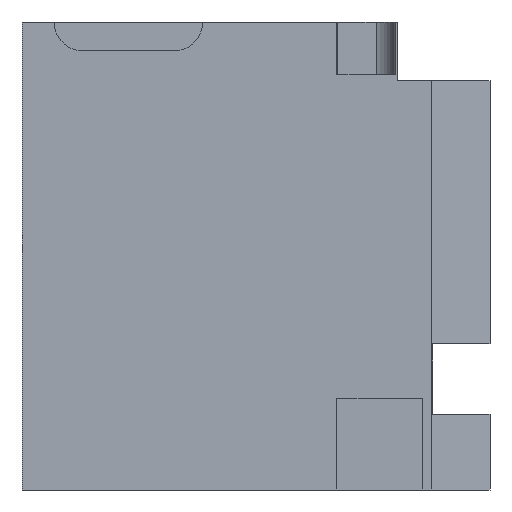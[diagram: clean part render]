
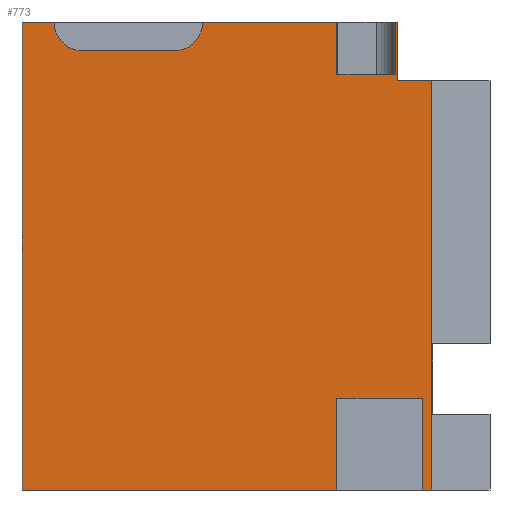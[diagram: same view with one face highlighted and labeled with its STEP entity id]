
A CAD part, left-side view. The second image highlights one B-rep face of the part: STEP entity #773.
In plain terms, the highlighted planar face has unit normal (-1, 0, 0).
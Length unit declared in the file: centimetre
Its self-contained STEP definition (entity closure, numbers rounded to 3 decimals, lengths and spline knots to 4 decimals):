
#14 = DIRECTION ( 'NONE',  ( 0., -1., 0. ) ) ;
#21 = LINE ( 'NONE', #136, #1499 ) ;
#35 = VERTEX_POINT ( 'NONE', #1261 ) ;
#36 = VECTOR ( 'NONE', #90, 100. ) ;
#41 = CARTESIAN_POINT ( 'NONE',  ( 0., 675.7896, 938.1245 ) ) ;
#61 = VECTOR ( 'NONE', #1421, 100. ) ;
#72 = CARTESIAN_POINT ( 'NONE',  ( 0., 869.4178, 1000. ) ) ;
#82 = ORIENTED_EDGE ( 'NONE', *, *, #718, .F. ) ;
#90 = DIRECTION ( 'NONE',  ( 0., -1., 0. ) ) ;
#104 = VECTOR ( 'NONE', #1470, 100. ) ;
#114 = LINE ( 'NONE', #1567, #1287 ) ;
#122 = DIRECTION ( 'NONE',  ( 0., -1., 0. ) ) ;
#136 = CARTESIAN_POINT ( 'NONE',  ( 0., 124.3257, 1000. ) ) ;
#151 = FACE_OUTER_BOUND ( 'NONE', #714, .T. ) ;
#152 = DIRECTION ( 'NONE',  ( 0., 0., -1. ) ) ;
#158 = CARTESIAN_POINT ( 'NONE',  ( 0., 613.9141, 1000. ) ) ;
#171 = VERTEX_POINT ( 'NONE', #674 ) ;
#191 = ORIENTED_EDGE ( 'NONE', *, *, #1350, .F. ) ;
#198 = EDGE_CURVE ( 'NONE', #896, #943, #328, .T. ) ;
#208 = DIRECTION ( 'NONE',  ( 0., 0., 1. ) ) ;
#237 = CARTESIAN_POINT ( 'NONE',  ( 0., 144.4894, 196.3971 ) ) ;
#241 = CARTESIAN_POINT ( 'NONE',  ( 0., 1000., 0. ) ) ;
#256 = ORIENTED_EDGE ( 'NONE', *, *, #903, .F. ) ;
#260 = CARTESIAN_POINT ( 'NONE',  ( 0., 1000., 1000. ) ) ;
#265 = VECTOR ( 'NONE', #1509, 100. ) ;
#278 = EDGE_CURVE ( 'NONE', #809, #707, #21, .T. ) ;
#295 = VERTEX_POINT ( 'NONE', #619 ) ;
#304 = LINE ( 'NONE', #41, #458 ) ;
#311 = CARTESIAN_POINT ( 'NONE',  ( 0., 144.4894, 196.3971 ) ) ;
#317 = CARTESIAN_POINT ( 'NONE',  ( 0., 201.9825, 1000. ) ) ;
#324 = CARTESIAN_POINT ( 'NONE',  ( 0., 197.2023, 874.3855 ) ) ;
#328 = LINE ( 'NONE', #237, #1085 ) ;
#349 = VERTEX_POINT ( 'NONE', #1219 ) ;
#351 = VERTEX_POINT ( 'NONE', #1110 ) ;
#359 = VECTOR ( 'NONE', #152, 100. ) ;
#382 = ORIENTED_EDGE ( 'NONE', *, *, #1407, .F. ) ;
#387 = CARTESIAN_POINT ( 'NONE',  ( 0., 869.4178, 938.1245 ) ) ;
#430 = CARTESIAN_POINT ( 'NONE',  ( 0., 327.1732, 887.9261 ) ) ;
#431 = CIRCLE ( 'NONE', #580, 61.8755 ) ;
#446 = CARTESIAN_POINT ( 'NONE',  ( 0., 1000., 1000. ) ) ;
#447 = LINE ( 'NONE', #1036, #61 ) ;
#457 = EDGE_CURVE ( 'NONE', #171, #809, #114, .T. ) ;
#458 = VECTOR ( 'NONE', #995, 100. ) ;
#471 = DIRECTION ( 'NONE',  ( 0., 0., -1. ) ) ;
#476 = VERTEX_POINT ( 'NONE', #604 ) ;
#495 = VERTEX_POINT ( 'NONE', #317 ) ;
#504 = EDGE_CURVE ( 'NONE', #495, #1514, #901, .T. ) ;
#506 = CARTESIAN_POINT ( 'NONE',  ( 0., 327.1732, 1000. ) ) ;
#510 = VECTOR ( 'NONE', #1277, 100. ) ;
#526 = DIRECTION ( 'NONE',  ( -1., 0., 0. ) ) ;
#540 = DIRECTION ( 'NONE',  ( 0., 0., -1. ) ) ;
#560 = CARTESIAN_POINT ( 'NONE',  ( 0., 144.4894, 196.3971 ) ) ;
#574 = EDGE_CURVE ( 'NONE', #295, #1280, #1018, .T. ) ;
#580 = AXIS2_PLACEMENT_3D ( 'NONE', #1007, #526, #1507 ) ;
#594 = CARTESIAN_POINT ( 'NONE',  ( 0., 327.1732, 196.3971 ) ) ;
#597 = EDGE_CURVE ( 'NONE', #35, #1514, #686, .T. ) ;
#598 = VERTEX_POINT ( 'NONE', #446 ) ;
#600 = ORIENTED_EDGE ( 'NONE', *, *, #1394, .T. ) ;
#604 = CARTESIAN_POINT ( 'NONE',  ( 0., 931.2933, 1000. ) ) ;
#605 = ORIENTED_EDGE ( 'NONE', *, *, #1396, .F. ) ;
#618 = ORIENTED_EDGE ( 'NONE', *, *, #1021, .T. ) ;
#619 = CARTESIAN_POINT ( 'NONE',  ( 0., 327.1732, 887.9261 ) ) ;
#621 = CARTESIAN_POINT ( 'NONE',  ( 0., 124.3257, 874.3855 ) ) ;
#622 = LINE ( 'NONE', #1228, #753 ) ;
#627 = LINE ( 'NONE', #863, #359 ) ;
#638 = EDGE_CURVE ( 'NONE', #1398, #349, #1433, .T. ) ;
#648 = ORIENTED_EDGE ( 'NONE', *, *, #574, .T. ) ;
#656 = PLANE ( 'NONE',  #1262 ) ;
#674 = CARTESIAN_POINT ( 'NONE',  ( 0., 144.4894, 0. ) ) ;
#686 = LINE ( 'NONE', #324, #756 ) ;
#704 = VECTOR ( 'NONE', #1098, 100. ) ;
#707 = VERTEX_POINT ( 'NONE', #621 ) ;
#711 = LINE ( 'NONE', #594, #1135 ) ;
#714 = EDGE_LOOP ( 'NONE', ( #1379, #648, #1189, #1525, #382, #256, #191, #600, #1064, #82, #1256, #618, #728, #992, #1199, #1450, #913, #605 ) ) ;
#718 = EDGE_CURVE ( 'NONE', #943, #349, #711, .T. ) ;
#728 = ORIENTED_EDGE ( 'NONE', *, *, #457, .T. ) ;
#732 = VERTEX_POINT ( 'NONE', #387 ) ;
#753 = VECTOR ( 'NONE', #1105, 100. ) ;
#756 = VECTOR ( 'NONE', #208, 100. ) ;
#773 = ADVANCED_FACE ( 'NONE', ( #151 ), #656, .F. ) ;
#790 = LINE ( 'NONE', #930, #510 ) ;
#791 = CARTESIAN_POINT ( 'NONE',  ( 0., 1000., 1000. ) ) ;
#804 = CIRCLE ( 'NONE', #1526, 61.8755 ) ;
#809 = VERTEX_POINT ( 'NONE', #1493 ) ;
#863 = CARTESIAN_POINT ( 'NONE',  ( 0., 1000., 1000. ) ) ;
#880 = LINE ( 'NONE', #311, #265 ) ;
#896 = VERTEX_POINT ( 'NONE', #560 ) ;
#901 = LINE ( 'NONE', #791, #36 ) ;
#903 = EDGE_CURVE ( 'NONE', #476, #732, #804, .T. ) ;
#909 = DIRECTION ( 'NONE',  ( 0., 0., 1. ) ) ;
#913 = ORIENTED_EDGE ( 'NONE', *, *, #504, .F. ) ;
#930 = CARTESIAN_POINT ( 'NONE',  ( 0., 0., 874.3855 ) ) ;
#943 = VERTEX_POINT ( 'NONE', #1393 ) ;
#966 = DIRECTION ( 'NONE',  ( 0., 0., 1. ) ) ;
#992 = ORIENTED_EDGE ( 'NONE', *, *, #278, .T. ) ;
#994 = DIRECTION ( 'NONE',  ( 1., 0., 0. ) ) ;
#995 = DIRECTION ( 'NONE',  ( 0., -1., 0. ) ) ;
#1007 = CARTESIAN_POINT ( 'NONE',  ( 0., 675.7896, 1000. ) ) ;
#1018 = LINE ( 'NONE', #430, #1108 ) ;
#1021 = EDGE_CURVE ( 'NONE', #896, #171, #880, .T. ) ;
#1036 = CARTESIAN_POINT ( 'NONE',  ( 0., 1000., 1000. ) ) ;
#1064 = ORIENTED_EDGE ( 'NONE', *, *, #638, .T. ) ;
#1085 = VECTOR ( 'NONE', #1551, 100. ) ;
#1092 = CARTESIAN_POINT ( 'NONE',  ( 0., 675.7896, 938.1245 ) ) ;
#1098 = DIRECTION ( 'NONE',  ( 0., -1., 0. ) ) ;
#1105 = DIRECTION ( 'NONE',  ( 0., 0., 1. ) ) ;
#1108 = VECTOR ( 'NONE', #909, 100. ) ;
#1110 = CARTESIAN_POINT ( 'NONE',  ( 0., 201.9825, 887.9261 ) ) ;
#1135 = VECTOR ( 'NONE', #471, 100. ) ;
#1141 = DIRECTION ( 'NONE',  ( -1., 0., 0. ) ) ;
#1159 = VECTOR ( 'NONE', #14, 100. ) ;
#1189 = ORIENTED_EDGE ( 'NONE', *, *, #1248, .F. ) ;
#1199 = ORIENTED_EDGE ( 'NONE', *, *, #1532, .T. ) ;
#1203 = CARTESIAN_POINT ( 'NONE',  ( 0., 1000., 887.9261 ) ) ;
#1219 = CARTESIAN_POINT ( 'NONE',  ( 0., 327.1732, 0. ) ) ;
#1228 = CARTESIAN_POINT ( 'NONE',  ( 0., 201.9825, 887.9261 ) ) ;
#1248 = EDGE_CURVE ( 'NONE', #1315, #1280, #447, .T. ) ;
#1256 = ORIENTED_EDGE ( 'NONE', *, *, #198, .F. ) ;
#1261 = CARTESIAN_POINT ( 'NONE',  ( 0., 197.2023, 874.3855 ) ) ;
#1262 = AXIS2_PLACEMENT_3D ( 'NONE', #1371, #994, #540 ) ;
#1277 = DIRECTION ( 'NONE',  ( 0., 1., 0. ) ) ;
#1280 = VERTEX_POINT ( 'NONE', #506 ) ;
#1287 = VECTOR ( 'NONE', #122, 100. ) ;
#1305 = VERTEX_POINT ( 'NONE', #1092 ) ;
#1315 = VERTEX_POINT ( 'NONE', #158 ) ;
#1334 = EDGE_CURVE ( 'NONE', #295, #351, #1348, .T. ) ;
#1348 = LINE ( 'NONE', #1203, #704 ) ;
#1350 = EDGE_CURVE ( 'NONE', #598, #476, #1447, .T. ) ;
#1354 = CARTESIAN_POINT ( 'NONE',  ( 0., 1000., 0. ) ) ;
#1371 = CARTESIAN_POINT ( 'NONE',  ( 0., 1000., 1000. ) ) ;
#1379 = ORIENTED_EDGE ( 'NONE', *, *, #1334, .F. ) ;
#1393 = CARTESIAN_POINT ( 'NONE',  ( 0., 327.1732, 196.3971 ) ) ;
#1394 = EDGE_CURVE ( 'NONE', #598, #1398, #627, .T. ) ;
#1396 = EDGE_CURVE ( 'NONE', #351, #495, #622, .T. ) ;
#1398 = VERTEX_POINT ( 'NONE', #1354 ) ;
#1401 = CARTESIAN_POINT ( 'NONE',  ( 0., 197.2023, 1000. ) ) ;
#1407 = EDGE_CURVE ( 'NONE', #732, #1305, #304, .T. ) ;
#1421 = DIRECTION ( 'NONE',  ( 0., -1., 0. ) ) ;
#1433 = LINE ( 'NONE', #241, #1159 ) ;
#1447 = LINE ( 'NONE', #260, #104 ) ;
#1450 = ORIENTED_EDGE ( 'NONE', *, *, #597, .T. ) ;
#1459 = EDGE_CURVE ( 'NONE', #1305, #1315, #431, .T. ) ;
#1470 = DIRECTION ( 'NONE',  ( 0., -1., 0. ) ) ;
#1493 = CARTESIAN_POINT ( 'NONE',  ( 0., 124.3257, 0. ) ) ;
#1499 = VECTOR ( 'NONE', #966, 100. ) ;
#1507 = DIRECTION ( 'NONE',  ( 0., 0., -1. ) ) ;
#1509 = DIRECTION ( 'NONE',  ( 0., 0., -1. ) ) ;
#1514 = VERTEX_POINT ( 'NONE', #1401 ) ;
#1518 = DIRECTION ( 'NONE',  ( 0., 0., -1. ) ) ;
#1525 = ORIENTED_EDGE ( 'NONE', *, *, #1459, .F. ) ;
#1526 = AXIS2_PLACEMENT_3D ( 'NONE', #72, #1141, #1518 ) ;
#1532 = EDGE_CURVE ( 'NONE', #707, #35, #790, .T. ) ;
#1551 = DIRECTION ( 'NONE',  ( 0., 1., 0. ) ) ;
#1567 = CARTESIAN_POINT ( 'NONE',  ( 0., 1000., 0. ) ) ;
